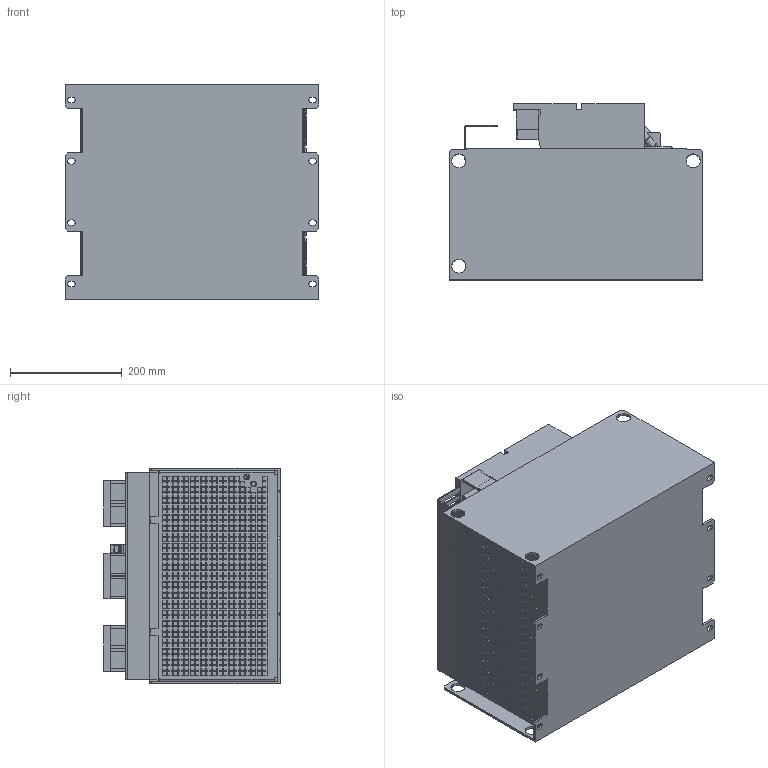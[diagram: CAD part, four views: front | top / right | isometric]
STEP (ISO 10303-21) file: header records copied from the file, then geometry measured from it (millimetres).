
FILE_DESCRIPTION(('Creo Elements/Direct Modeling STEP Export'),'2;1');
FILE_NAME('CHOKE_RPS_160.stp','2022-10-20T17:43:56',(''),(''),'Creo Elements/Direct Modeling STEP processor for AP214 (Solid Model)','Creo Elements/Direct Modeling 20.4A 18-Oct-2021 (C) Parametric Technology GmbH','');
FILE_SCHEMA(('AUTOMOTIVE_DESIGN { 1 0 10303 214 1 1 1 1 }'));
Products named in the file (2): CHOKE_RPS_160
Assembly tree (1 placements, depth 2):
  CHOKE_RPS_160
    CHOKE_RPS_160
Bounding box: 455 x 315.8 x 386 mm (x, y, z)
Volume: 40120695.1 mm3; surface area: 1140084.6 mm2
Topology: 1 solids, 12 shells, 5168 faces, 13327 edges, 8910 vertices
Faces by surface type: plane 4698, cylinder 264, torus 110, bspline 96
Entity records: 206470 total; most frequent: CARTESIAN_POINT 47033, ORIENTED_EDGE 26642, DIRECTION 22184, EDGE_CURVE 13321, VECTOR 11852, LINE 11852, VERTEX_POINT 8907, EDGE_LOOP 6214
